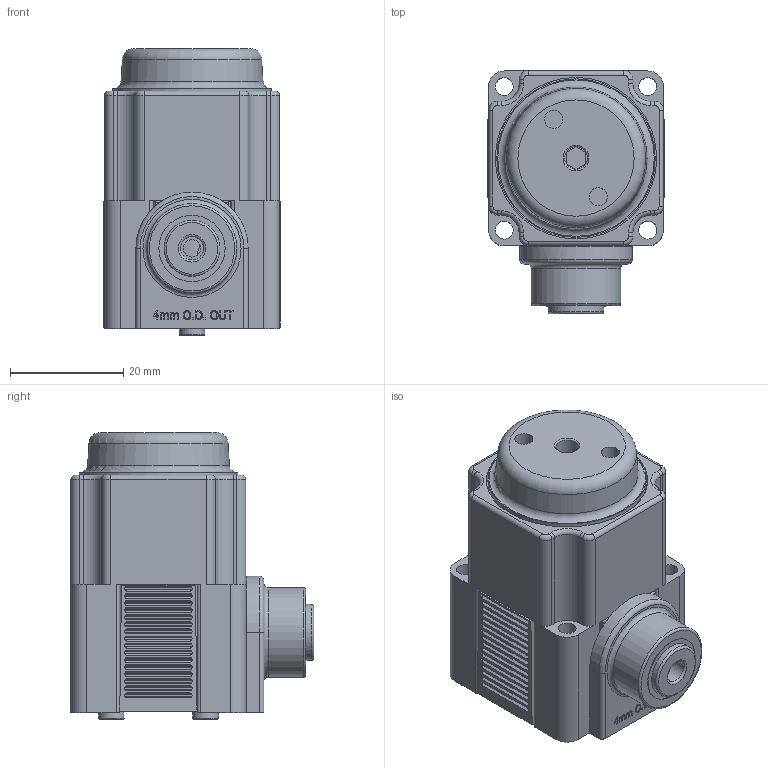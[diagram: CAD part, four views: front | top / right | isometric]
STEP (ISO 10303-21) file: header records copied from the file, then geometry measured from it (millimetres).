
FILE_DESCRIPTION(/* description */ (''),/* implementation_level */ '2;1');
FILE_NAME(/* name */ 'K:\Normteile INVENTOR\Air-Logic\Regulators\PR6000\PR 6___ 7 Push-In Fitting for 4mm O.D. Tube Out.igs.ipt.stp',/* time_stamp */ '2020-05-27T10:53:10+02:00',/* author */ ('Paul'),/* organization */ (''),/* preprocessor_version */ 'ST-DEVELOPER v18',/* originating_system */ 'Autodesk Inventor 2020',/* authorisation */ '');
FILE_SCHEMA (('AUTOMOTIVE_DESIGN { 1 0 10303 214 3 1 1 }'));
Length unit declared in the file: inch
Products named in the file (1): PR 6___ 7 Push-In Fitting for 4mm O.D. Tube Out.igs
Bounding box: 31.19 x 43.08 x 50.78 mm (x, y, z)
Volume: 41687.1 mm3; surface area: 13716.8 mm2
Topology: 1 solids, 1 shells, 806 faces, 2093 edges, 1380 vertices
Faces by surface type: plane 407, cylinder 274, bspline 88, torus 34, cone 3
Full cylindrical faces by diameter (mm): 1.194 x1, 2.032 x1, 3.073 x1, 3.124 x2, 3.175 x8, 3.226 x2, 4.013 x1, 4.089 x1, 4.521 x2, 6.045 x1, 8.382 x2, 9.169 x1, 9.398 x1, 9.906 x1, 11.735 x1, 12.903 x1, 15.85 x1, 25.781 x1, 28.047 x1, 28.575 x1
Entity records: 28933 total; most frequent: CARTESIAN_POINT 8255, ORIENTED_EDGE 4186, DIRECTION 4094, EDGE_CURVE 2093, AXIS2_PLACEMENT_3D 1549, VERTEX_POINT 1380, LINE 996, VECTOR 996
